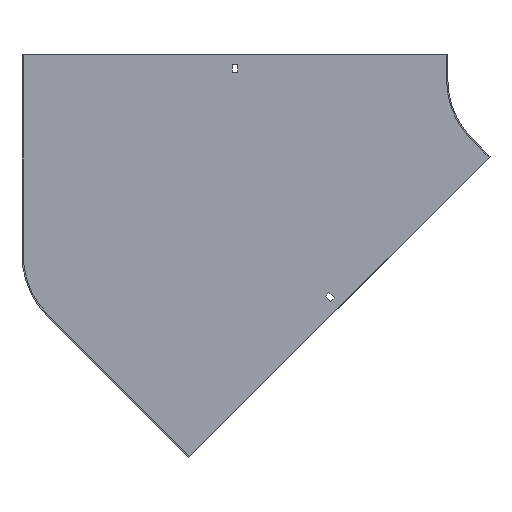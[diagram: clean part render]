
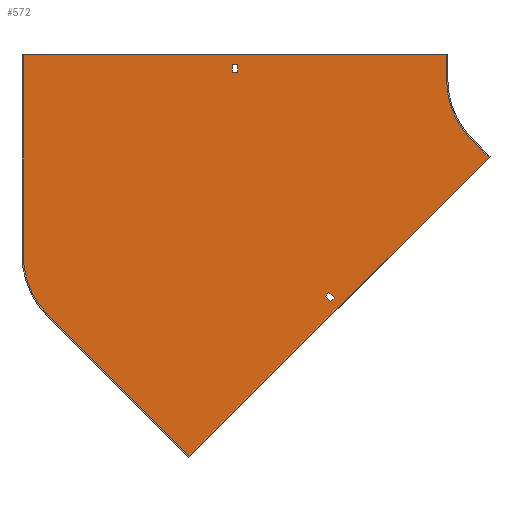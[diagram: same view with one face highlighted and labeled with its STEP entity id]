
A CAD part, front view. The second image highlights one B-rep face of the part: STEP entity #572.
In plain terms, the highlighted planar face has unit normal (0, -1, 0).
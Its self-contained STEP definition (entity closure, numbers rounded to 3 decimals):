
#22 = ORIENTED_EDGE ( 'NONE', *, *, #26, .F. ) ;
#26 = EDGE_CURVE ( 'NONE', #36, #630, #359, .T. ) ;
#33 = CARTESIAN_POINT ( 'NONE',  ( -246.957, -1.5, -246.957 ) ) ;
#36 = VERTEX_POINT ( 'NONE', #827 ) ;
#37 = EDGE_CURVE ( 'NONE', #641, #814, #500, .T. ) ;
#45 = DIRECTION ( 'NONE',  ( 0., 1., 0. ) ) ;
#48 = ORIENTED_EDGE ( 'NONE', *, *, #377, .F. ) ;
#52 = LINE ( 'NONE', #576, #808 ) ;
#60 = DIRECTION ( 'NONE',  ( 0.707, 0., 0.707 ) ) ;
#63 = ORIENTED_EDGE ( 'NONE', *, *, #710, .F. ) ;
#71 = EDGE_CURVE ( 'NONE', #452, #543, #450, .T. ) ;
#75 = LINE ( 'NONE', #143, #491 ) ;
#86 = AXIS2_PLACEMENT_3D ( 'NONE', #214, #595, #471 ) ;
#87 = DIRECTION ( 'NONE',  ( 0.707, 0., -0.707 ) ) ;
#88 = VECTOR ( 'NONE', #414, 1000. ) ;
#96 = VERTEX_POINT ( 'NONE', #255 ) ;
#120 = CARTESIAN_POINT ( 'NONE',  ( -240.593, -1.5, -253.321 ) ) ;
#124 = CARTESIAN_POINT ( 'NONE',  ( -349.25, -1.5, 0. ) ) ;
#127 = CARTESIAN_POINT ( 'NONE',  ( -48.79, -1.5, -91.217 ) ) ;
#128 = ORIENTED_EDGE ( 'NONE', *, *, #71, .T. ) ;
#134 = VERTEX_POINT ( 'NONE', #723 ) ;
#135 = CARTESIAN_POINT ( 'NONE',  ( -100.5, -1.5, 30. ) ) ;
#140 = VECTOR ( 'NONE', #689, 1000. ) ;
#143 = CARTESIAN_POINT ( 'NONE',  ( -604.5, -1.5, -209.178 ) ) ;
#151 = EDGE_LOOP ( 'NONE', ( #201, #128, #340, #437 ) ) ;
#153 = CARTESIAN_POINT ( 'NONE',  ( -349.25, -1.5, 18. ) ) ;
#154 = VECTOR ( 'NONE', #790, 1000. ) ;
#159 = EDGE_CURVE ( 'NONE', #207, #96, #244, .T. ) ;
#161 = ORIENTED_EDGE ( 'NONE', *, *, #635, .F. ) ;
#162 = CARTESIAN_POINT ( 'NONE',  ( 6.364, -1.5, -6.364 ) ) ;
#163 = LINE ( 'NONE', #173, #835 ) ;
#172 = DIRECTION ( 'NONE',  ( -0.707, 0., 0.707 ) ) ;
#173 = CARTESIAN_POINT ( 'NONE',  ( 0., -1.5, 18. ) ) ;
#199 = CARTESIAN_POINT ( 'NONE',  ( -355.75, -1.5, 0. ) ) ;
#201 = ORIENTED_EDGE ( 'NONE', *, *, #341, .T. ) ;
#202 = LINE ( 'NONE', #199, #154 ) ;
#206 = VECTOR ( 'NONE', #331, 1000. ) ;
#207 = VERTEX_POINT ( 'NONE', #718 ) ;
#209 = CARTESIAN_POINT ( 'NONE',  ( -606., -1.5, 30. ) ) ;
#214 = CARTESIAN_POINT ( 'NONE',  ( 0., -1.5, 0. ) ) ;
#226 = DIRECTION ( 'NONE',  ( 0., -1., 0. ) ) ;
#233 = LINE ( 'NONE', #162, #140 ) ;
#240 = ORIENTED_EDGE ( 'NONE', *, *, #578, .F. ) ;
#244 = LINE ( 'NONE', #127, #326 ) ;
#245 = ORIENTED_EDGE ( 'NONE', *, *, #760, .F. ) ;
#254 = CARTESIAN_POINT ( 'NONE',  ( -575.357, -1.5, -279.535 ) ) ;
#255 = CARTESIAN_POINT ( 'NONE',  ( -406.233, -1.5, -448.659 ) ) ;
#262 = ORIENTED_EDGE ( 'NONE', *, *, #484, .F. ) ;
#269 = VECTOR ( 'NONE', #172, 1000. ) ;
#281 = DIRECTION ( 'NONE',  ( 0., 0., 1. ) ) ;
#299 = LINE ( 'NONE', #758, #761 ) ;
#308 = ORIENTED_EDGE ( 'NONE', *, *, #159, .F. ) ;
#310 = CIRCLE ( 'NONE', #86, 100.5 ) ;
#321 = LINE ( 'NONE', #135, #206 ) ;
#326 = VECTOR ( 'NONE', #451, 1000. ) ;
#331 = DIRECTION ( 'NONE',  ( 0., 0., -1. ) ) ;
#332 = CARTESIAN_POINT ( 'NONE',  ( -349.25, -1.5, 9. ) ) ;
#336 = ORIENTED_EDGE ( 'NONE', *, *, #779, .F. ) ;
#340 = ORIENTED_EDGE ( 'NONE', *, *, #594, .T. ) ;
#341 = EDGE_CURVE ( 'NONE', #380, #452, #163, .T. ) ;
#342 = PLANE ( 'NONE',  #545 ) ;
#343 = ORIENTED_EDGE ( 'NONE', *, *, #37, .F. ) ;
#351 = LINE ( 'NONE', #615, #363 ) ;
#356 = DIRECTION ( 'NONE',  ( -0.707, 0., 0.707 ) ) ;
#359 = LINE ( 'NONE', #625, #534 ) ;
#363 = VECTOR ( 'NONE', #356, 1000. ) ;
#377 = EDGE_CURVE ( 'NONE', #134, #579, #310, .T. ) ;
#380 = VERTEX_POINT ( 'NONE', #607 ) ;
#383 = DIRECTION ( 'NONE',  ( -1., 0., 0. ) ) ;
#401 = VERTEX_POINT ( 'NONE', #537 ) ;
#405 = VECTOR ( 'NONE', #87, 1000. ) ;
#414 = DIRECTION ( 'NONE',  ( 1., 0., 0. ) ) ;
#419 = ORIENTED_EDGE ( 'NONE', *, *, #459, .F. ) ;
#437 = ORIENTED_EDGE ( 'NONE', *, *, #703, .T. ) ;
#450 = LINE ( 'NONE', #124, #480 ) ;
#451 = DIRECTION ( 'NONE',  ( -0.707, 0., -0.707 ) ) ;
#452 = VERTEX_POINT ( 'NONE', #153 ) ;
#459 = EDGE_CURVE ( 'NONE', #622, #401, #75, .T. ) ;
#471 = DIRECTION ( 'NONE',  ( 0., 0., -1. ) ) ;
#473 = EDGE_LOOP ( 'NONE', ( #161, #419, #604, #63, #308, #262, #48, #336 ) ) ;
#480 = VECTOR ( 'NONE', #700, 1000. ) ;
#483 = LINE ( 'NONE', #743, #405 ) ;
#484 = EDGE_CURVE ( 'NONE', #579, #207, #483, .T. ) ;
#491 = VECTOR ( 'NONE', #281, 1000. ) ;
#500 = LINE ( 'NONE', #33, #269 ) ;
#534 = VECTOR ( 'NONE', #561, 1000. ) ;
#537 = CARTESIAN_POINT ( 'NONE',  ( -604.5, -1.5, 30. ) ) ;
#543 = VERTEX_POINT ( 'NONE', #332 ) ;
#545 = AXIS2_PLACEMENT_3D ( 'NONE', #831, #226, #754 ) ;
#546 = CIRCLE ( 'NONE', #693, 99.5 ) ;
#559 = FACE_BOUND ( 'NONE', #151, .T. ) ;
#561 = DIRECTION ( 'NONE',  ( 0.707, 0., -0.707 ) ) ;
#572 = ADVANCED_FACE ( 'NONE', ( #677, #823, #559 ), #342, .T. ) ;
#576 = CARTESIAN_POINT ( 'NONE',  ( 12.728, -1.5, -12.728 ) ) ;
#578 = EDGE_CURVE ( 'NONE', #814, #36, #233, .T. ) ;
#579 = VERTEX_POINT ( 'NONE', #628 ) ;
#585 = DIRECTION ( 'NONE',  ( 0., 0., -1. ) ) ;
#587 = CARTESIAN_POINT ( 'NONE',  ( -234.229, -1.5, -259.685 ) ) ;
#594 = EDGE_CURVE ( 'NONE', #543, #825, #299, .T. ) ;
#595 = DIRECTION ( 'NONE',  ( 0., -1., 0. ) ) ;
#604 = ORIENTED_EDGE ( 'NONE', *, *, #784, .F. ) ;
#607 = CARTESIAN_POINT ( 'NONE',  ( -355.75, -1.5, 18. ) ) ;
#615 = CARTESIAN_POINT ( 'NONE',  ( -406.233, -1.5, -448.659 ) ) ;
#622 = VERTEX_POINT ( 'NONE', #644 ) ;
#625 = CARTESIAN_POINT ( 'NONE',  ( -251.553, -1.5, -251.553 ) ) ;
#628 = CARTESIAN_POINT ( 'NONE',  ( -71.064, -1.5, -71.064 ) ) ;
#630 = VERTEX_POINT ( 'NONE', #787 ) ;
#635 = EDGE_CURVE ( 'NONE', #401, #778, #856, .T. ) ;
#641 = VERTEX_POINT ( 'NONE', #587 ) ;
#644 = CARTESIAN_POINT ( 'NONE',  ( -604.5, -1.5, -209.178 ) ) ;
#652 = CARTESIAN_POINT ( 'NONE',  ( -100.5, -1.5, 30. ) ) ;
#677 = FACE_BOUND ( 'NONE', #704, .T. ) ;
#689 = DIRECTION ( 'NONE',  ( -0.707, 0., -0.707 ) ) ;
#693 = AXIS2_PLACEMENT_3D ( 'NONE', #793, #45, #585 ) ;
#700 = DIRECTION ( 'NONE',  ( 0., 0., -1. ) ) ;
#703 = EDGE_CURVE ( 'NONE', #825, #380, #202, .T. ) ;
#704 = EDGE_LOOP ( 'NONE', ( #343, #245, #22, #240 ) ) ;
#710 = EDGE_CURVE ( 'NONE', #96, #826, #351, .T. ) ;
#718 = CARTESIAN_POINT ( 'NONE',  ( -49.851, -1.5, -92.277 ) ) ;
#723 = CARTESIAN_POINT ( 'NONE',  ( -100.5, -1.5, 0. ) ) ;
#743 = CARTESIAN_POINT ( 'NONE',  ( -71.064, -1.5, -71.064 ) ) ;
#750 = DIRECTION ( 'NONE',  ( 1., 0., 0. ) ) ;
#754 = DIRECTION ( 'NONE',  ( 0., 0., -1. ) ) ;
#758 = CARTESIAN_POINT ( 'NONE',  ( 0., -1.5, 9. ) ) ;
#760 = EDGE_CURVE ( 'NONE', #630, #641, #52, .T. ) ;
#761 = VECTOR ( 'NONE', #383, 1000. ) ;
#778 = VERTEX_POINT ( 'NONE', #652 ) ;
#779 = EDGE_CURVE ( 'NONE', #778, #134, #321, .T. ) ;
#784 = EDGE_CURVE ( 'NONE', #826, #622, #546, .T. ) ;
#787 = CARTESIAN_POINT ( 'NONE',  ( -238.825, -1.5, -264.281 ) ) ;
#790 = DIRECTION ( 'NONE',  ( 0., 0., 1. ) ) ;
#793 = CARTESIAN_POINT ( 'NONE',  ( -505., -1.5, -209.178 ) ) ;
#808 = VECTOR ( 'NONE', #60, 1000. ) ;
#814 = VERTEX_POINT ( 'NONE', #120 ) ;
#823 = FACE_OUTER_BOUND ( 'NONE', #473, .T. ) ;
#825 = VERTEX_POINT ( 'NONE', #839 ) ;
#826 = VERTEX_POINT ( 'NONE', #254 ) ;
#827 = CARTESIAN_POINT ( 'NONE',  ( -245.189, -1.5, -257.917 ) ) ;
#831 = CARTESIAN_POINT ( 'NONE',  ( 0., -1.5, 0. ) ) ;
#835 = VECTOR ( 'NONE', #750, 1000. ) ;
#839 = CARTESIAN_POINT ( 'NONE',  ( -355.75, -1.5, 9. ) ) ;
#856 = LINE ( 'NONE', #209, #88 ) ;
